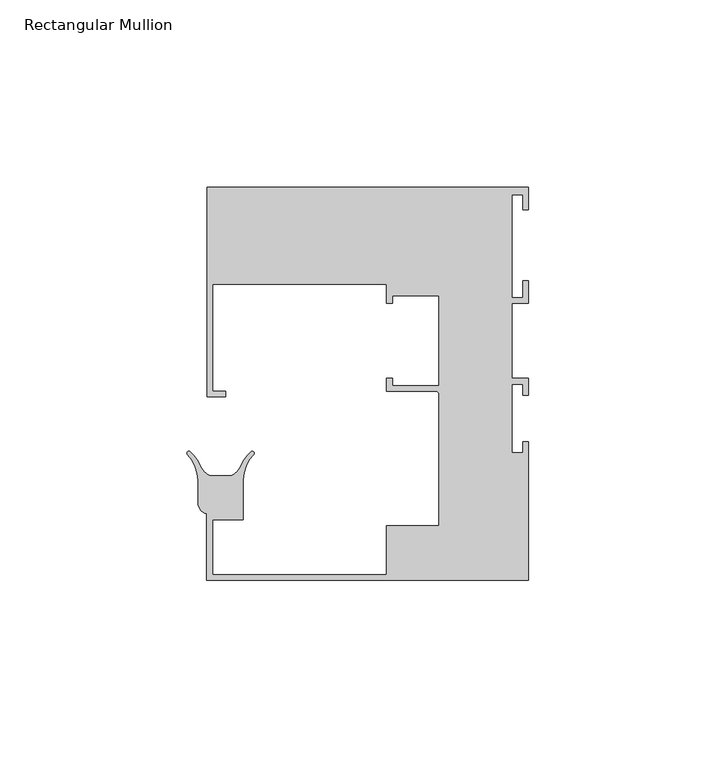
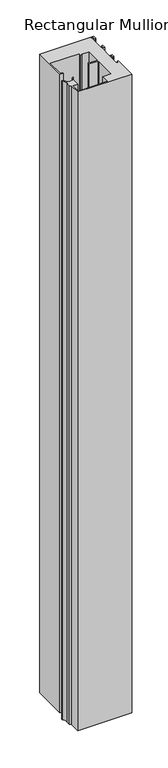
"""IFC4 building model written with IfcOpenShell, lengths in millimetres: member geometry, Rectangular Mullion : Danpal_Airpt_End-Mullion_B1."""

from ifc_helpers import new_model, si_unit, point, frame, frame_2d, origin, place, context, project, spatial, polyline, circle_curve, trimmed, segment, composite_curve, outline, extrude, source, transform, mapped, element, save


def rectangular_mullion_25efc16a(model_context):
    return source(origin(), model_context, "Body", "SweptSolid", [
        extrude(outline(composite_curve([segment(polyline([(-84.5, 44.249979), (-84.5, 15.7500001), (-81.0, 15.7500001), (-81.0, 14.2500001), (-86.0, 14.2500001), (-86.0, 70.2500001), (0.0, 70.2500001), (0.0, 64.2500001), (-1.5, 64.2500001), (-1.5, 68.2500001), (-4.5, 68.2500001), (-4.5, 40.7500001), (-1.5180937, 40.7500001), (-1.5180937, 45.2500001), (-0.0180937, 45.2500001), (-0.0180937, 39.2500001), (-4.5, 39.2500001), (-4.5, 19.25), (-0.0180922, 19.25), (-0.0180922, 14.65), (-1.5180922, 14.65), (-1.5180922, 17.65), (-4.5180922, 17.65), (-4.5180922, -0.75), (-1.5180922, -0.75), (-1.5180922, 2.25), (-0.0180922, 2.25), (-0.0180922, -34.75), (-86.0180914, -34.75), (-86.0180914, -17.0365625)]), True, "CONTINUOUS"), segment(trimmed(circle_curve(frame_2d((-85.366716, -14.1081309)), 3.0000002), [point((-86.0180914, -17.0365625))], [point((-88.3666989, -14.1183419))], False, "CARTESIAN"), True, "CONTINUOUS"), segment(polyline([(-88.3666989, -14.1183419), (-88.3666989, -8.1181379)]), True, "CONTINUOUS"), segment(trimmed(circle_curve(frame_2d((-98.3666403, -8.1523787)), 10.0), [point((-88.3666989, -8.1181379))], [point((-91.1789286, -1.1999114))], True, "CARTESIAN"), True, "CONTINUOUS"), segment(trimmed(circle_curve(frame_2d((-90.8194227, -0.8521716)), 0.5001675), [point((-91.1789286, -1.1999114))], [point((-90.4970116, -0.4697862))], False, "CARTESIAN"), True, "CONTINUOUS"), segment(trimmed(circle_curve(frame_2d((-96.9430732, -8.114934)), 9.9999998), [point((-90.4970116, -0.4697862))], [point((-87.9289412, -3.785336))], False, "CARTESIAN"), True, "CONTINUOUS"), segment(trimmed(circle_curve(frame_2d((-78.9148092, 0.544262)), 9.9999997), [point((-87.9289412, -3.785336))], [point((-86.6990305, -5.7331494))], True, "CARTESIAN"), True, "CONTINUOUS"), segment(trimmed(circle_curve(frame_2d((-84.363764, -3.8499259)), 3.0), [point((-86.6990305, -5.7331494))], [point((-84.363764, -6.8499259))], True, "CARTESIAN"), True, "CONTINUOUS"), segment(polyline([(-84.363764, -6.8499259), (-80.32512, -6.8499259)]), True, "CONTINUOUS"), segment(trimmed(circle_curve(frame_2d((-80.32512, -3.8499259)), 3.0), [point((-80.32512, -6.8499259))], [point((-77.9898528, -5.7331484))], True, "CARTESIAN"), True, "CONTINUOUS"), segment(trimmed(circle_curve(frame_2d((-85.7740768, 0.5442599)), 10.0), [point((-77.9898528, -5.7331484))], [point((-76.759944, -3.7853369))], True, "CARTESIAN"), True, "CONTINUOUS"), segment(trimmed(circle_curve(frame_2d((-67.7458114, -8.1149337)), 9.9999997), [point((-76.759944, -3.7853369))], [point((-74.1944462, -0.4719563))], False, "CARTESIAN"), True, "CONTINUOUS"), segment(trimmed(circle_curve(frame_2d((-73.8718016, -0.8543575)), 0.5003301), [point((-74.1944462, -0.4719563))], [point((-73.5120728, -1.2021009))], False, "CARTESIAN"), True, "CONTINUOUS"), segment(trimmed(circle_curve(frame_2d((-66.322244, -8.1523787)), 10.0), [point((-73.5120728, -1.2021009))], [point((-76.3180945, -7.8643287))], True, "CARTESIAN"), True, "CONTINUOUS"), segment(polyline([(-76.3180945, -7.8643287), (-76.3180945, -18.6499969), (-84.5180945, -18.6499969), (-84.5180945, -33.2499969), (-38.0180899, -33.2499969), (-38.0180899, -20.2499969), (-23.9180899, -20.2499969), (-23.9180899, 14.698377)]), True, "CONTINUOUS"), segment(trimmed(circle_curve(frame_2d((-24.969716, 14.698377)), 1.0516261), [point((-23.9180899, 14.698377))], [point((-24.969716, 15.7500031))], True, "CARTESIAN"), True, "CONTINUOUS"), segment(polyline([(-24.969716, 15.7500031), (-38.0180899, 15.7500031), (-38.0180899, 19.2500031), (-36.4180899, 19.2500031), (-36.4180899, 17.2500031), (-23.9180899, 17.2500031), (-23.9180899, 41.2500001), (-36.4, 41.2500001), (-36.4, 39.2500001), (-38.0, 39.2500001), (-38.0, 44.249979), (-84.5, 44.249979)]), True, "CONTINUOUS")], self_intersect=False)), frame((0.0, 0.0, -1075.3470765), z_axis=(0.0, 0.0, 1.0), x_axis=(1.0, 0.0, 0.0)), (0.0, 0.0, 1.0), 1075.3470765),
    ])


if __name__ == "__main__":
    model = new_model("IFC4")
    model_context = context("Model", 3, world=origin())
    ifc_project = project(units=[si_unit("LENGTHUNIT", "METRE", prefix="MILLI")], contexts=[model_context])
    site = spatial("IfcSite", under=ifc_project)
    building = spatial("IfcBuilding", under=site)
    placement = place(None, origin())
    rectangular_mullion_shape = rectangular_mullion_25efc16a(model_context)
    element("IfcMember", 1, ObjectType="Rectangular Mullion : Danpal_Airpt_End-Mullion_B1", at=placement, inside=building, context=model_context, shape_type="MappedRepresentation", body=[
        mapped(rectangular_mullion_shape, transform((0.0, 0.0, 0.0), x_axis=(1.0, 0.0, 0.0), y_axis=(0.0, 1.0, 0.0), z_axis=(0.0, 0.0, 1.0))),
    ])
    save(model, "model.ifc")
